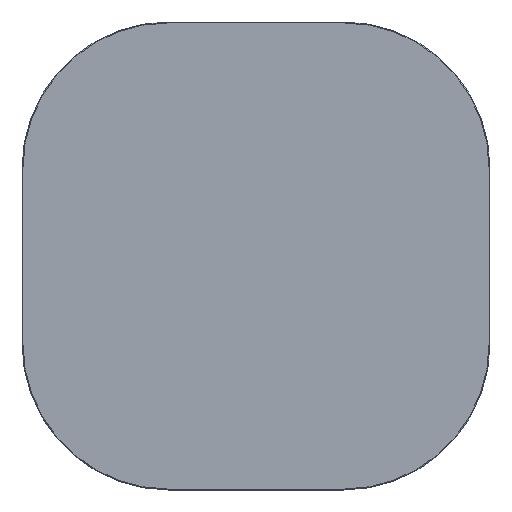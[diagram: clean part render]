
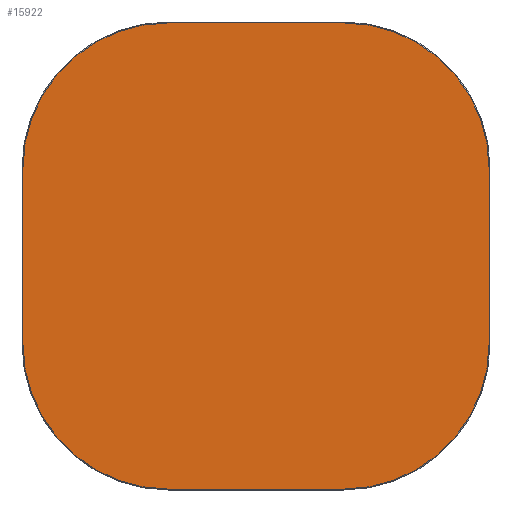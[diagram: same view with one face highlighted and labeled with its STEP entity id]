
A CAD part, top view. The second image highlights one B-rep face of the part: STEP entity #15922.
In plain terms, the highlighted planar face has unit normal (0, 0, 1).
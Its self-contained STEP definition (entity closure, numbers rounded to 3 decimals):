
#15847=CARTESIAN_POINT('',(0.,0.,20.));
#15848=DIRECTION('',(1.,0.,0.));
#15849=DIRECTION('',(0.,0.,1.));
#15850=AXIS2_PLACEMENT_3D('',#15847,#15849,#15848);
#15851=PLANE('',#15850);
#15852=CARTESIAN_POINT('',(-150.,-398.5,20.));
#15853=VERTEX_POINT('',#15852);
#15854=CARTESIAN_POINT('',(150.,-398.5,20.));
#15855=VERTEX_POINT('',#15854);
#15856=CARTESIAN_POINT('',(-150.,-398.5,20.));
#15857=DIRECTION('',(1.,0.,0.));
#15858=VECTOR('',#15857,300.);
#15859=LINE('',#15856,#15858);
#15860=EDGE_CURVE('',#15853,#15855,#15859,.T.);
#15861=ORIENTED_EDGE('E105',*,*,#15860,.T.);
#15862=CARTESIAN_POINT('',(398.5,-150.,20.));
#15863=VERTEX_POINT('',#15862);
#15864=CARTESIAN_POINT('',(150.,-150.,20.));
#15865=DIRECTION('',(0.,-1.,0.));
#15866=DIRECTION('',(0.,0.,1.));
#15867=AXIS2_PLACEMENT_3D('',#15864,#15866,#15865);
#15868=CIRCLE('',#15867,248.5);
#15869=EDGE_CURVE('',#15855,#15863,#15868,.T.);
#15870=ORIENTED_EDGE('E107',*,*,#15869,.T.);
#15871=CARTESIAN_POINT('',(398.5,150.,20.));
#15872=VERTEX_POINT('',#15871);
#15873=CARTESIAN_POINT('',(398.5,-150.,20.));
#15874=DIRECTION('',(0.,1.,0.));
#15875=VECTOR('',#15874,300.);
#15876=LINE('',#15873,#15875);
#15877=EDGE_CURVE('',#15863,#15872,#15876,.T.);
#15878=ORIENTED_EDGE('E109',*,*,#15877,.T.);
#15879=CARTESIAN_POINT('',(150.,398.5,20.));
#15880=VERTEX_POINT('',#15879);
#15881=CARTESIAN_POINT('',(150.,150.,20.));
#15882=DIRECTION('',(1.,0.,0.));
#15883=DIRECTION('',(0.,0.,1.));
#15884=AXIS2_PLACEMENT_3D('',#15881,#15883,#15882);
#15885=CIRCLE('',#15884,248.5);
#15886=EDGE_CURVE('',#15872,#15880,#15885,.T.);
#15887=ORIENTED_EDGE('E111',*,*,#15886,.T.);
#15888=CARTESIAN_POINT('',(-150.,398.5,20.));
#15889=VERTEX_POINT('',#15888);
#15890=CARTESIAN_POINT('',(150.,398.5,20.));
#15891=DIRECTION('',(-1.,0.,0.));
#15892=VECTOR('',#15891,300.);
#15893=LINE('',#15890,#15892);
#15894=EDGE_CURVE('',#15880,#15889,#15893,.T.);
#15895=ORIENTED_EDGE('E113',*,*,#15894,.T.);
#15896=CARTESIAN_POINT('',(-398.5,150.,20.));
#15897=VERTEX_POINT('',#15896);
#15898=CARTESIAN_POINT('',(-150.,150.,20.));
#15899=DIRECTION('',(0.,1.,0.));
#15900=DIRECTION('',(0.,0.,1.));
#15901=AXIS2_PLACEMENT_3D('',#15898,#15900,#15899);
#15902=CIRCLE('',#15901,248.5);
#15903=EDGE_CURVE('',#15889,#15897,#15902,.T.);
#15904=ORIENTED_EDGE('E115',*,*,#15903,.T.);
#15905=CARTESIAN_POINT('',(-398.5,-150.,20.));
#15906=VERTEX_POINT('',#15905);
#15907=CARTESIAN_POINT('',(-398.5,150.,20.));
#15908=DIRECTION('',(0.,-1.,0.));
#15909=VECTOR('',#15908,300.);
#15910=LINE('',#15907,#15909);
#15911=EDGE_CURVE('',#15897,#15906,#15910,.T.);
#15912=ORIENTED_EDGE('E117',*,*,#15911,.T.);
#15913=CARTESIAN_POINT('',(-150.,-150.,20.));
#15914=DIRECTION('',(-1.,0.,0.));
#15915=DIRECTION('',(-0.,0.,1.));
#15916=AXIS2_PLACEMENT_3D('',#15913,#15915,#15914);
#15917=CIRCLE('',#15916,248.5);
#15918=EDGE_CURVE('',#15906,#15853,#15917,.T.);
#15919=ORIENTED_EDGE('E119',*,*,#15918,.T.);
#15920=EDGE_LOOP('',(#15861,#15870,#15878,#15887,#15895,#15904,#15912,#15919));
#15921=FACE_OUTER_BOUND('',#15920,.T.);
#15922=ADVANCED_FACE('F2',(#15921),#15851,.T.);
